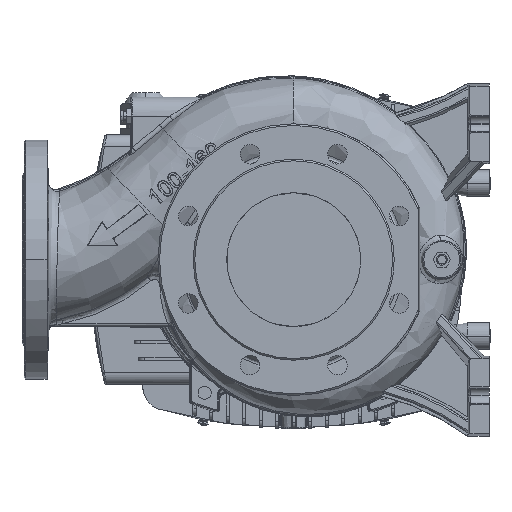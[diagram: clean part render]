
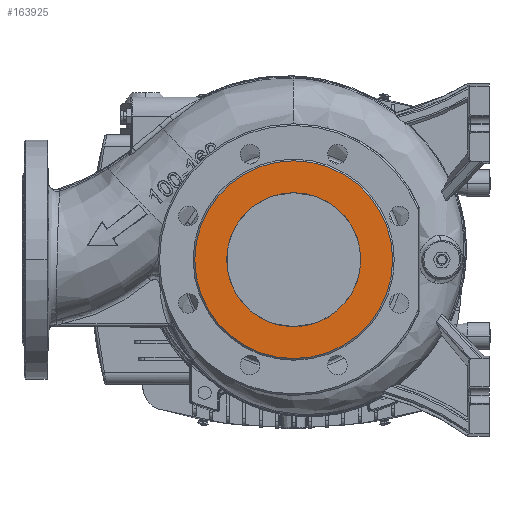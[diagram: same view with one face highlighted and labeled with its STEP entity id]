
A CAD part, left-side view. The second image highlights one B-rep face of the part: STEP entity #163925.
In plain terms, the highlighted planar face has unit normal (-1, 0, 0).
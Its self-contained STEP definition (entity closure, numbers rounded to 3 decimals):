
#1363 = CARTESIAN_POINT ( 'NONE',  ( -300.5, 0., 0. ) ) ;
#2269 = AXIS2_PLACEMENT_3D ( 'NONE', #193939, #34167, #105293 ) ;
#18798 = EDGE_CURVE ( 'NONE', #78637, #111550, #46434, .T. ) ;
#19386 = CIRCLE ( 'NONE', #164580, 91. ) ;
#19412 = DIRECTION ( 'NONE',  ( 0., 0., 1. ) ) ;
#25729 = CARTESIAN_POINT ( 'NONE',  ( -300.5, 0., 91. ) ) ;
#27531 = ORIENTED_EDGE ( 'NONE', *, *, #18798, .F. ) ;
#27871 = EDGE_CURVE ( 'NONE', #66434, #154521, #80580, .T. ) ;
#34167 = DIRECTION ( 'NONE',  ( 1., 0., 0. ) ) ;
#46434 = CIRCLE ( 'NONE', #106015, 61.655 ) ;
#57624 = CARTESIAN_POINT ( 'NONE',  ( -300.5, 0., 61.655 ) ) ;
#58937 = CARTESIAN_POINT ( 'NONE',  ( -300.5, 0., 0. ) ) ;
#66434 = VERTEX_POINT ( 'NONE', #145494 ) ;
#71712 = DIRECTION ( 'NONE',  ( -1., 0., 0. ) ) ;
#73085 = DIRECTION ( 'NONE',  ( -1., 0., 0. ) ) ;
#78637 = VERTEX_POINT ( 'NONE', #57624 ) ;
#80580 = CIRCLE ( 'NONE', #117840, 91. ) ;
#88053 = CARTESIAN_POINT ( 'NONE',  ( -300.5, 0., 0. ) ) ;
#90093 = FACE_BOUND ( 'NONE', #179804, .T. ) ;
#91745 = ORIENTED_EDGE ( 'NONE', *, *, #27871, .T. ) ;
#105293 = DIRECTION ( 'NONE',  ( 0., 0., -1. ) ) ;
#106015 = AXIS2_PLACEMENT_3D ( 'NONE', #1363, #106341, #179765 ) ;
#106341 = DIRECTION ( 'NONE',  ( -1., 0., 0. ) ) ;
#106449 = PLANE ( 'NONE',  #2269 ) ;
#107631 = EDGE_CURVE ( 'NONE', #154521, #66434, #19386, .T. ) ;
#111550 = VERTEX_POINT ( 'NONE', #189205 ) ;
#113546 = ORIENTED_EDGE ( 'NONE', *, *, #107631, .T. ) ;
#117840 = AXIS2_PLACEMENT_3D ( 'NONE', #216484, #73085, #19412 ) ;
#122818 = FACE_OUTER_BOUND ( 'NONE', #136488, .T. ) ;
#130084 = DIRECTION ( 'NONE',  ( -1., 0., 0. ) ) ;
#136488 = EDGE_LOOP ( 'NONE', ( #113546, #91745 ) ) ;
#140506 = CIRCLE ( 'NONE', #192563, 61.655 ) ;
#145494 = CARTESIAN_POINT ( 'NONE',  ( -300.5, 0., -91. ) ) ;
#154521 = VERTEX_POINT ( 'NONE', #25729 ) ;
#157025 = ORIENTED_EDGE ( 'NONE', *, *, #165337, .F. ) ;
#163925 = ADVANCED_FACE ( 'NONE', ( #122818, #90093 ), #106449, .F. ) ;
#164580 = AXIS2_PLACEMENT_3D ( 'NONE', #88053, #71712, #230332 ) ;
#165337 = EDGE_CURVE ( 'NONE', #111550, #78637, #140506, .T. ) ;
#179765 = DIRECTION ( 'NONE',  ( 0., 0., 1. ) ) ;
#179804 = EDGE_LOOP ( 'NONE', ( #157025, #27531 ) ) ;
#189205 = CARTESIAN_POINT ( 'NONE',  ( -300.5, 0., -61.655 ) ) ;
#192563 = AXIS2_PLACEMENT_3D ( 'NONE', #58937, #130084, #223282 ) ;
#193939 = CARTESIAN_POINT ( 'NONE',  ( -300.5, 0., 0. ) ) ;
#216484 = CARTESIAN_POINT ( 'NONE',  ( -300.5, 0., 0. ) ) ;
#223282 = DIRECTION ( 'NONE',  ( 0., 0., 1. ) ) ;
#230332 = DIRECTION ( 'NONE',  ( 0., 0., 1. ) ) ;
